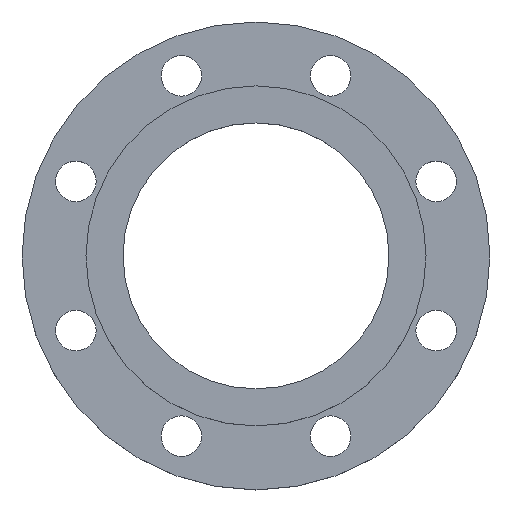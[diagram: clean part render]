
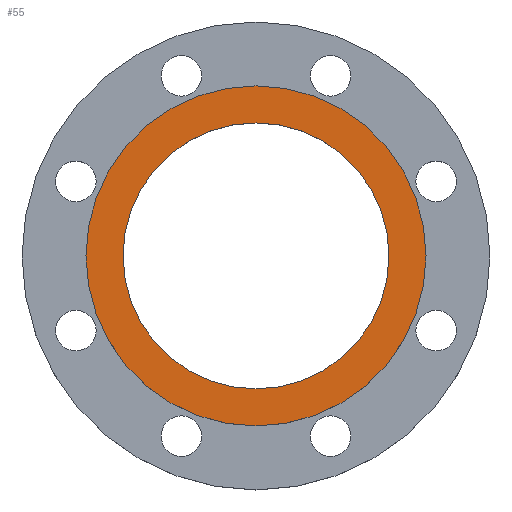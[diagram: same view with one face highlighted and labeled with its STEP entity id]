
A CAD part, top view. The second image highlights one B-rep face of the part: STEP entity #55.
In plain terms, the highlighted planar face has unit normal (0, 0, 1).
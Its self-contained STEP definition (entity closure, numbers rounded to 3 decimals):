
#55 = ADVANCED_FACE ( 'NONE', ( #243, #571 ), #860, .F. ) ;
#92 = AXIS2_PLACEMENT_3D ( 'NONE', #136, #487, #786 ) ;
#105 = DIRECTION ( 'NONE',  ( -1., 0., 0. ) ) ;
#116 = EDGE_LOOP ( 'NONE', ( #370, #939 ) ) ;
#124 = CIRCLE ( 'NONE', #469, 109. ) ;
#136 = CARTESIAN_POINT ( 'NONE',  ( 85.25, 0., 24. ) ) ;
#163 = CARTESIAN_POINT ( 'NONE',  ( 0., 0., 24. ) ) ;
#197 = DIRECTION ( 'NONE',  ( -1., 0., 0. ) ) ;
#243 = FACE_OUTER_BOUND ( 'NONE', #116, .T. ) ;
#247 = DIRECTION ( 'NONE',  ( 0., 0., -1. ) ) ;
#310 = VERTEX_POINT ( 'NONE', #758 ) ;
#323 = EDGE_CURVE ( 'NONE', #844, #1010, #124, .T. ) ;
#325 = EDGE_CURVE ( 'NONE', #833, #310, #484, .T. ) ;
#370 = ORIENTED_EDGE ( 'NONE', *, *, #323, .F. ) ;
#469 = AXIS2_PLACEMENT_3D ( 'NONE', #620, #903, #197 ) ;
#478 = AXIS2_PLACEMENT_3D ( 'NONE', #539, #832, #105 ) ;
#484 = CIRCLE ( 'NONE', #478, 85.25 ) ;
#487 = DIRECTION ( 'NONE',  ( 0., 0., -1. ) ) ;
#513 = EDGE_CURVE ( 'NONE', #1010, #844, #705, .T. ) ;
#517 = DIRECTION ( 'NONE',  ( 0., 0., -1. ) ) ;
#539 = CARTESIAN_POINT ( 'NONE',  ( 0., 0., 24. ) ) ;
#552 = AXIS2_PLACEMENT_3D ( 'NONE', #163, #517, #811 ) ;
#571 = FACE_BOUND ( 'NONE', #601, .T. ) ;
#575 = DIRECTION ( 'NONE',  ( -1., 0., 0. ) ) ;
#585 = AXIS2_PLACEMENT_3D ( 'NONE', #931, #247, #575 ) ;
#601 = EDGE_LOOP ( 'NONE', ( #609, #634 ) ) ;
#609 = ORIENTED_EDGE ( 'NONE', *, *, #325, .T. ) ;
#620 = CARTESIAN_POINT ( 'NONE',  ( 0., 0., 24. ) ) ;
#634 = ORIENTED_EDGE ( 'NONE', *, *, #647, .T. ) ;
#647 = EDGE_CURVE ( 'NONE', #310, #833, #874, .T. ) ;
#705 = CIRCLE ( 'NONE', #585, 109. ) ;
#758 = CARTESIAN_POINT ( 'NONE',  ( 85.25, 0., 24. ) ) ;
#786 = DIRECTION ( 'NONE',  ( -1., 0., 0. ) ) ;
#811 = DIRECTION ( 'NONE',  ( -1., 0., 0. ) ) ;
#832 = DIRECTION ( 'NONE',  ( 0., 0., -1. ) ) ;
#833 = VERTEX_POINT ( 'NONE', #989 ) ;
#844 = VERTEX_POINT ( 'NONE', #850 ) ;
#850 = CARTESIAN_POINT ( 'NONE',  ( -109., 0., 24. ) ) ;
#860 = PLANE ( 'NONE',  #92 ) ;
#874 = CIRCLE ( 'NONE', #552, 85.25 ) ;
#903 = DIRECTION ( 'NONE',  ( 0., 0., -1. ) ) ;
#931 = CARTESIAN_POINT ( 'NONE',  ( 0., 0., 24. ) ) ;
#939 = ORIENTED_EDGE ( 'NONE', *, *, #513, .F. ) ;
#956 = CARTESIAN_POINT ( 'NONE',  ( 109., 0., 24. ) ) ;
#989 = CARTESIAN_POINT ( 'NONE',  ( -85.25, 0., 24. ) ) ;
#1010 = VERTEX_POINT ( 'NONE', #956 ) ;
